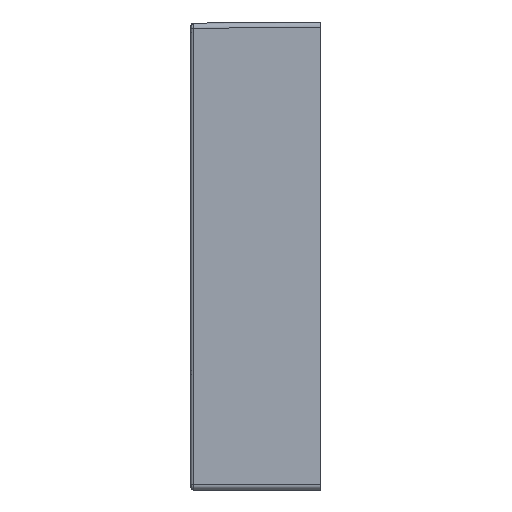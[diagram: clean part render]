
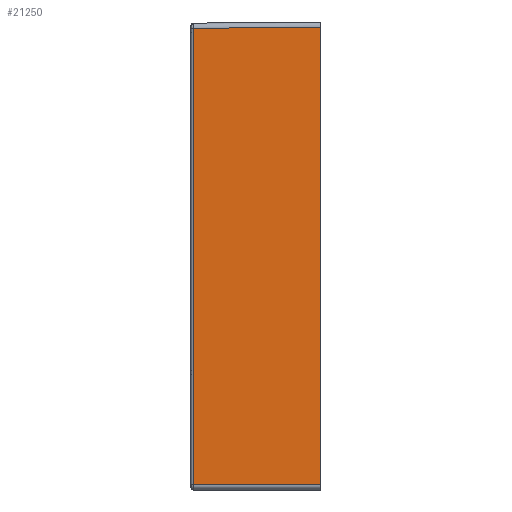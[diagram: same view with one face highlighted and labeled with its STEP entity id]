
A CAD part, left-side view. The second image highlights one B-rep face of the part: STEP entity #21250.
In plain terms, the highlighted planar face has unit normal (-1, 0.009, 0).
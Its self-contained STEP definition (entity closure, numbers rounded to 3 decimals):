
#152 = EDGE_CURVE ( 'NONE', #9230, #25787, #8456, .T. ) ;
#3305 = ORIENTED_EDGE ( 'NONE', *, *, #22048, .T. ) ;
#3428 = DIRECTION ( 'NONE',  ( 0., 0., 1. ) ) ;
#3966 = DIRECTION ( 'NONE',  ( -0.009, -1., 0. ) ) ;
#4012 = LINE ( 'NONE', #14133, #8059 ) ;
#4623 = VECTOR ( 'NONE', #6225, 1000. ) ;
#5941 = CARTESIAN_POINT ( 'NONE',  ( -510., 0., 0. ) ) ;
#5958 = LINE ( 'NONE', #22528, #4623 ) ;
#6080 = PLANE ( 'NONE',  #19943 ) ;
#6225 = DIRECTION ( 'NONE',  ( 0.009, 1., -0.009 ) ) ;
#8059 = VECTOR ( 'NONE', #20707, 1000. ) ;
#8456 = LINE ( 'NONE', #16688, #22482 ) ;
#9153 = VERTEX_POINT ( 'NONE', #21283 ) ;
#9230 = VERTEX_POINT ( 'NONE', #26466 ) ;
#12194 = VERTEX_POINT ( 'NONE', #24992 ) ;
#14101 = ORIENTED_EDGE ( 'NONE', *, *, #15713, .T. ) ;
#14133 = CARTESIAN_POINT ( 'NONE',  ( -508.926, 123.017, -195. ) ) ;
#15713 = EDGE_CURVE ( 'NONE', #9153, #9230, #4012, .T. ) ;
#16688 = CARTESIAN_POINT ( 'NONE',  ( -510., 0., -195. ) ) ;
#16752 = DIRECTION ( 'NONE',  ( -0.009, -1., 0. ) ) ;
#16812 = CARTESIAN_POINT ( 'NONE',  ( -510., 0., -195. ) ) ;
#18100 = EDGE_LOOP ( 'NONE', ( #25899, #14101, #25344, #3305 ) ) ;
#19499 = EDGE_CURVE ( 'NONE', #12194, #9153, #5958, .T. ) ;
#19943 = AXIS2_PLACEMENT_3D ( 'NONE', #5941, #23058, #16752 ) ;
#20707 = DIRECTION ( 'NONE',  ( 0., 0., -1. ) ) ;
#21250 = ADVANCED_FACE ( 'NONE', ( #24969 ), #6080, .T. ) ;
#21283 = CARTESIAN_POINT ( 'NONE',  ( -508.926, 123.017, 243.927 ) ) ;
#22048 = EDGE_CURVE ( 'NONE', #25787, #12194, #24772, .T. ) ;
#22186 = CARTESIAN_POINT ( 'NONE',  ( -510., 0., 0. ) ) ;
#22482 = VECTOR ( 'NONE', #3966, 1000. ) ;
#22528 = CARTESIAN_POINT ( 'NONE',  ( -509.981, 2.138, 244.982 ) ) ;
#23058 = DIRECTION ( 'NONE',  ( -1., 0.009, 0. ) ) ;
#24772 = LINE ( 'NONE', #22186, #25651 ) ;
#24969 = FACE_OUTER_BOUND ( 'NONE', #18100, .T. ) ;
#24992 = CARTESIAN_POINT ( 'NONE',  ( -510., 0., 245. ) ) ;
#25344 = ORIENTED_EDGE ( 'NONE', *, *, #152, .T. ) ;
#25651 = VECTOR ( 'NONE', #3428, 1000. ) ;
#25787 = VERTEX_POINT ( 'NONE', #16812 ) ;
#25899 = ORIENTED_EDGE ( 'NONE', *, *, #19499, .T. ) ;
#26466 = CARTESIAN_POINT ( 'NONE',  ( -508.926, 123.017, -195. ) ) ;
